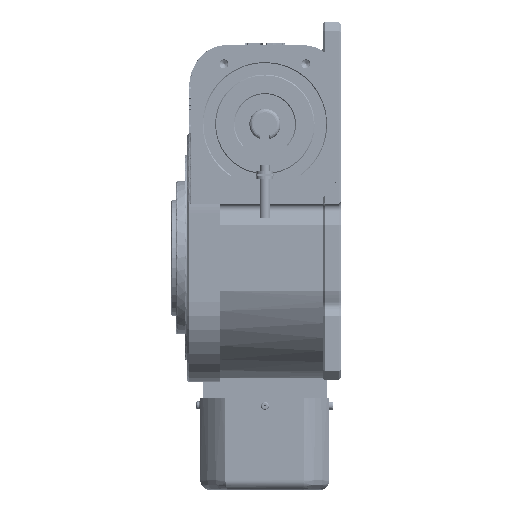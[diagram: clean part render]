
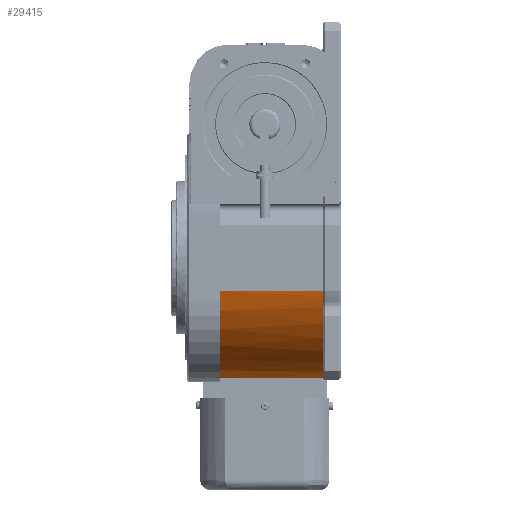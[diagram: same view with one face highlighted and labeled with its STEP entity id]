
A CAD part, left-side view. The second image highlights one B-rep face of the part: STEP entity #29415.
In plain terms, the highlighted cylindrical face has radius 140 mm (diameter 280 mm), a partial arc.
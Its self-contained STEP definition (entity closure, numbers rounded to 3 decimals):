
#1367 = VECTOR ( 'NONE', #35311, 1000. ) ;
#3798 = EDGE_CURVE ( 'NONE', #72125, #55121, #164255, .T. ) ;
#7703 = EDGE_CURVE ( 'NONE', #72125, #152124, #17231, .T. ) ;
#7792 = ORIENTED_EDGE ( 'NONE', *, *, #119333, .T. ) ;
#10962 = EDGE_CURVE ( 'NONE', #174226, #113470, #169547, .T. ) ;
#12672 = DIRECTION ( 'NONE',  ( 0., 0., -1. ) ) ;
#17231 = CIRCLE ( 'NONE', #130450, 140. ) ;
#22956 = CARTESIAN_POINT ( 'NONE',  ( -135., 135., -37.081 ) ) ;
#26987 = CARTESIAN_POINT ( 'NONE',  ( -128.429, 20., -55.732 ) ) ;
#29415 = ADVANCED_FACE ( 'NONE', ( #128481 ), #44296, .T. ) ;
#31396 = DIRECTION ( 'NONE',  ( 0., -1., 0. ) ) ;
#32533 = ORIENTED_EDGE ( 'NONE', *, *, #10962, .T. ) ;
#35311 = DIRECTION ( 'NONE',  ( 0., -1., 0. ) ) ;
#38178 = DIRECTION ( 'NONE',  ( 0., -1., 0. ) ) ;
#44296 = CYLINDRICAL_SURFACE ( 'NONE', #90134, 140. ) ;
#44746 = EDGE_LOOP ( 'NONE', ( #7792, #32533, #138121, #149087, #204348, #91516 ) ) ;
#46090 = CARTESIAN_POINT ( 'NONE',  ( 0., 20., 0. ) ) ;
#55121 = VERTEX_POINT ( 'NONE', #200668 ) ;
#57275 = VECTOR ( 'NONE', #154021, 1000. ) ;
#61968 = DIRECTION ( 'NONE',  ( 0., 0., -1. ) ) ;
#67069 = CARTESIAN_POINT ( 'NONE',  ( -37.081, 135., -135. ) ) ;
#69908 = DIRECTION ( 'NONE',  ( 0., 0., -1. ) ) ;
#72125 = VERTEX_POINT ( 'NONE', #26987 ) ;
#76638 = CARTESIAN_POINT ( 'NONE',  ( -37.081, 20., -135. ) ) ;
#77030 = CARTESIAN_POINT ( 'NONE',  ( 0., 20., 0. ) ) ;
#80986 = CIRCLE ( 'NONE', #129683, 140. ) ;
#81162 = AXIS2_PLACEMENT_3D ( 'NONE', #201928, #107449, #12672 ) ;
#89583 = EDGE_CURVE ( 'NONE', #55121, #109655, #141461, .T. ) ;
#90134 = AXIS2_PLACEMENT_3D ( 'NONE', #132920, #38178, #69908 ) ;
#91516 = ORIENTED_EDGE ( 'NONE', *, *, #89583, .T. ) ;
#92962 = DIRECTION ( 'NONE',  ( 0., 0., -1. ) ) ;
#107449 = DIRECTION ( 'NONE',  ( 0., 1., 0. ) ) ;
#109655 = VERTEX_POINT ( 'NONE', #22956 ) ;
#113470 = VERTEX_POINT ( 'NONE', #76638 ) ;
#119333 = EDGE_CURVE ( 'NONE', #109655, #174226, #80986, .T. ) ;
#126150 = CARTESIAN_POINT ( 'NONE',  ( 0., 135., 0. ) ) ;
#128481 = FACE_OUTER_BOUND ( 'NONE', #44746, .T. ) ;
#128860 = CARTESIAN_POINT ( 'NONE',  ( -37.081, 135., -135. ) ) ;
#129683 = AXIS2_PLACEMENT_3D ( 'NONE', #126150, #31396, #141998 ) ;
#130450 = AXIS2_PLACEMENT_3D ( 'NONE', #77030, #187485, #92962 ) ;
#132920 = CARTESIAN_POINT ( 'NONE',  ( 0., 135., 0. ) ) ;
#137447 = CIRCLE ( 'NONE', #81162, 140. ) ;
#138121 = ORIENTED_EDGE ( 'NONE', *, *, #184128, .T. ) ;
#140260 = CARTESIAN_POINT ( 'NONE',  ( -135., 135., -37.081 ) ) ;
#141461 = LINE ( 'NONE', #140260, #57275 ) ;
#141998 = DIRECTION ( 'NONE',  ( 0., 0., -1. ) ) ;
#149087 = ORIENTED_EDGE ( 'NONE', *, *, #7703, .F. ) ;
#152124 = VERTEX_POINT ( 'NONE', #159802 ) ;
#154021 = DIRECTION ( 'NONE',  ( 0., 1., 0. ) ) ;
#156677 = DIRECTION ( 'NONE',  ( 0., 1., 0. ) ) ;
#159802 = CARTESIAN_POINT ( 'NONE',  ( -59.182, 20., -126.876 ) ) ;
#164255 = CIRCLE ( 'NONE', #201368, 140. ) ;
#169547 = LINE ( 'NONE', #67069, #1367 ) ;
#174226 = VERTEX_POINT ( 'NONE', #128860 ) ;
#184128 = EDGE_CURVE ( 'NONE', #113470, #152124, #137447, .T. ) ;
#187485 = DIRECTION ( 'NONE',  ( 0., -1., 0. ) ) ;
#200668 = CARTESIAN_POINT ( 'NONE',  ( -135., 20., -37.081 ) ) ;
#201368 = AXIS2_PLACEMENT_3D ( 'NONE', #46090, #156677, #61968 ) ;
#201928 = CARTESIAN_POINT ( 'NONE',  ( 0., 20., 0. ) ) ;
#204348 = ORIENTED_EDGE ( 'NONE', *, *, #3798, .T. ) ;
